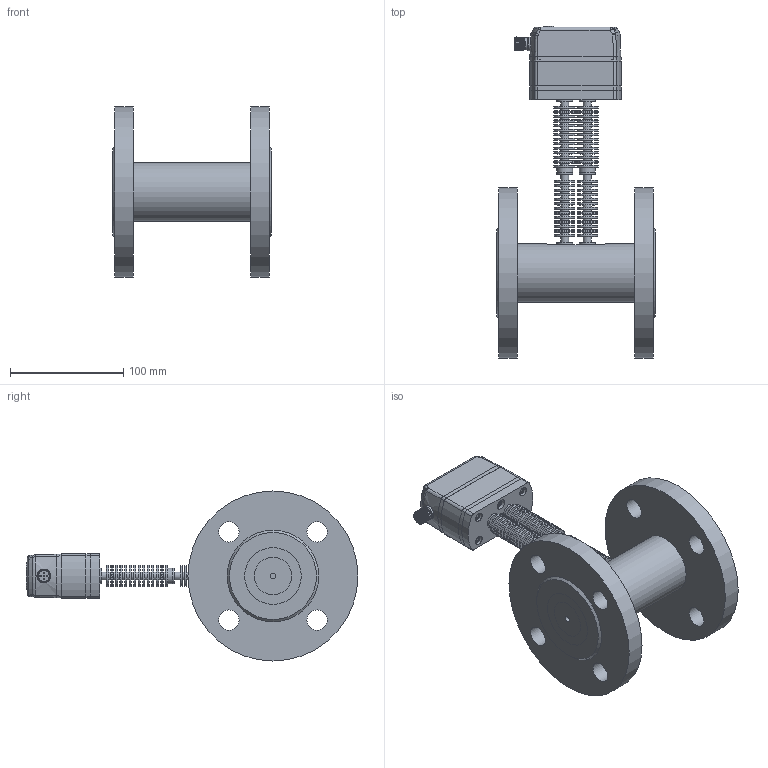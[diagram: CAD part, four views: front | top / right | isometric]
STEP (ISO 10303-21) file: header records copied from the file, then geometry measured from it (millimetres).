
FILE_DESCRIPTION( (''), '2;1');
FILE_NAME( 'QEKH_DN40_flange_cooling-fins_2.step', '2025-04-29T15:08:33+08:00', (''), (''), '', '', '');
FILE_SCHEMA (('AUTOMOTIVE_DESIGN { 1 0 10303 214 3 1 1 1 }'));
Length unit declared in the file: millimetre
Products named in the file (1): QEKH DN40_flange_cooling-fins_2
Bounding box: 140 x 292.9 x 150 mm (x, y, z)
Volume: 1043265.2 mm3; surface area: 228148.9 mm2
Topology: 30 solids, 33 shells, 1892 faces, 4384 edges, 2787 vertices
Faces by surface type: plane 864, cylinder 416, cone 264, extrusion 239, torus 52, bspline 48, sphere 9
Full cylindrical faces by diameter (mm): 1 x10, 2.05 x4, 2.6 x4, 2.7 x5, 2.874 x4, 3 x8, 3.1 x1, 3.3 x8, 3.5 x7, 3.838 x6, 4.2 x2, 4.5 x12, 5 x3, 5.5 x10, 7 x62, 8 x4, 9 x2, 9.8 x2, 10.8 x1, 11 x8, 11.5 x2, 11.992 x2, 12 x8, 14 x10, 14.5 x2, 17 x2, 18 x34, 19 x28, 19.1 x6, 25 x1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
Entity records: 57904 total; most frequent: CARTESIAN_POINT 17383, DIRECTION 7741, ORIENTED_EDGE 7604, EDGE_CURVE 3802, AXIS2_PLACEMENT_3D 2833, VERTEX_POINT 2694, EDGE_LOOP 2676, VECTOR 2075
